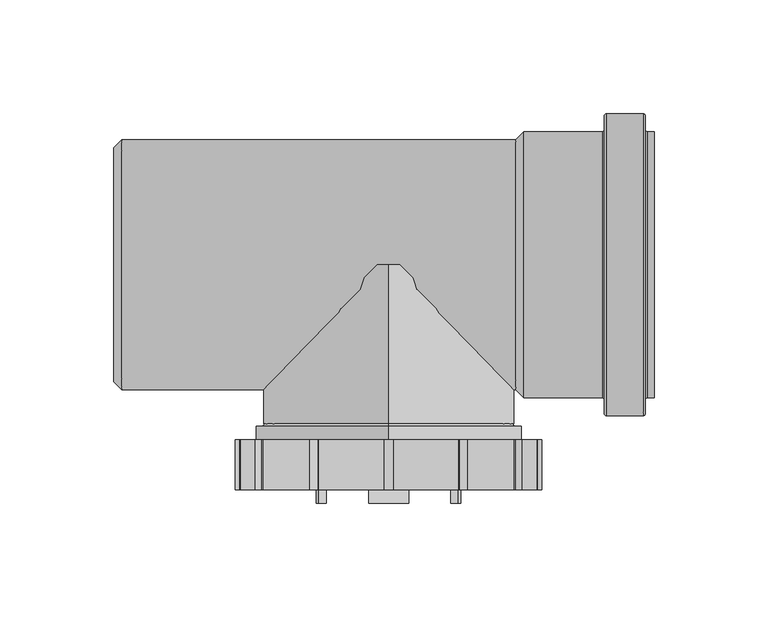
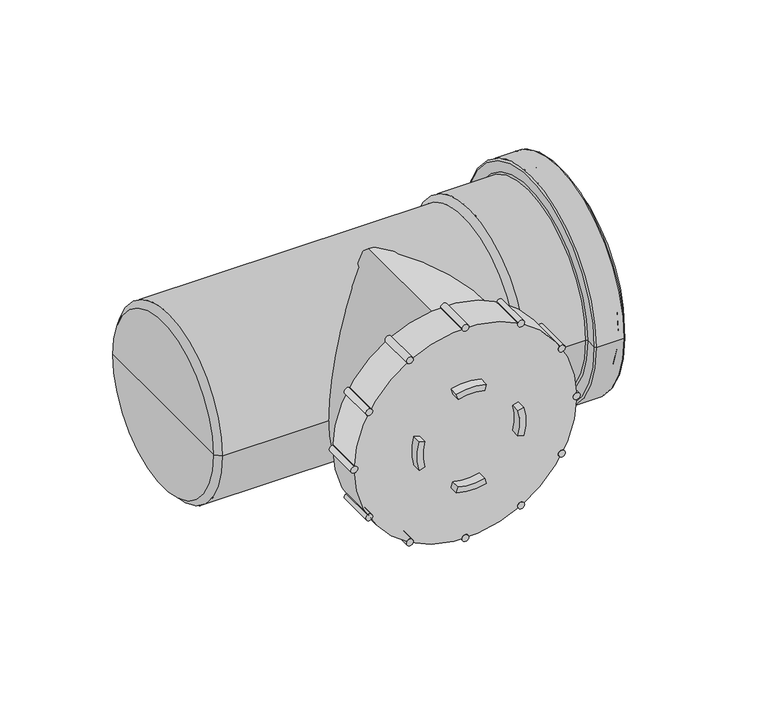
"""IFC4 building model written with IfcOpenShell, lengths in millimetres: pipe fitting geometry, MarleyPlumbingAndDrainage_PipeFitting_dBlueAccess_VCZ-110-000-00D : VCZ-110-000-00D - 110mm - Blue."""

from ifc_helpers import new_model, si_unit, point, frame, frame_2d, origin, place, context, project, spatial, polyline, circle_curve, ellipse_curve, trimmed, segment, composite_curve, outline, extrude, source, transform, mapped, element, save
from ifc_brep_helpers import plane_surface, cylinder_surface, revolved_surface, advanced_brep


def pipe_fitting_27dfb203(model_context):
    return source(origin(), model_context, "Body", "SolidModel", [
        extrude(outline(composite_curve([segment(trimmed(circle_curve(frame_2d((32.75, -454.0706525)), 2.0), [point((34.4820508, -455.0706525))], [point((31.0179492, -453.0706525))], False, "CARTESIAN"), True, "CONTINUOUS"), segment(trimmed(circle_curve(frame_2d((32.75, -454.0706525)), 2.0), [point((31.0179492, -453.0706525))], [point((34.4820508, -455.0706525))], False, "CARTESIAN"), True, "CONTINUOUS")], self_intersect=False)), frame((0.0, -99.0, 0.0), z_axis=(0.0, 1.0, 0.0), x_axis=(0.0, 0.0, 1.0)), (0.0, 0.0, 1.0), 22.0),
        extrude(outline(composite_curve([segment(trimmed(circle_curve(frame_2d((0.0, -445.2953164)), 2.0), [point((2.0, -445.2953164))], [point((-2.0, -445.2953164))], False, "CARTESIAN"), True, "CONTINUOUS"), segment(trimmed(circle_curve(frame_2d((0.0, -445.2953164)), 2.0), [point((-2.0, -445.2953164))], [point((2.0, -445.2953164))], False, "CARTESIAN"), True, "CONTINUOUS")], self_intersect=False)), frame((0.0, -99.0, 0.0), z_axis=(0.0, 1.0, 0.0), x_axis=(0.0, 0.0, 1.0)), (0.0, 0.0, 1.0), 22.0),
        extrude(outline(composite_curve([segment(trimmed(circle_curve(frame_2d((-32.75, -454.0706525)), 2.0), [point((-31.0179492, -453.0706525))], [point((-34.4820508, -455.0706525))], False, "CARTESIAN"), True, "CONTINUOUS"), segment(trimmed(circle_curve(frame_2d((-32.75, -454.0706525)), 2.0), [point((-34.4820508, -455.0706525))], [point((-31.0179492, -453.0706525))], False, "CARTESIAN"), True, "CONTINUOUS")], self_intersect=False)), frame((0.0, -99.0, 0.0), z_axis=(0.0, 1.0, 0.0), x_axis=(0.0, 0.0, 1.0)), (0.0, 0.0, 1.0), 22.0),
        extrude(outline(composite_curve([segment(trimmed(circle_curve(frame_2d((-56.7246639, -478.0453164)), 2.0), [point((-55.7246639, -476.3132656))], [point((-57.7246639, -479.7773672))], False, "CARTESIAN"), True, "CONTINUOUS"), segment(trimmed(circle_curve(frame_2d((-56.7246639, -478.0453164)), 2.0), [point((-57.7246639, -479.7773672))], [point((-55.7246639, -476.3132656))], False, "CARTESIAN"), True, "CONTINUOUS")], self_intersect=False)), frame((0.0, -99.0, 0.0), z_axis=(0.0, 1.0, 0.0), x_axis=(0.0, 0.0, 1.0)), (0.0, 0.0, 1.0), 22.0),
        extrude(outline(composite_curve([segment(trimmed(circle_curve(frame_2d((-65.5, -510.7953164)), 2.0), [point((-65.5, -508.7953164))], [point((-65.5, -512.7953164))], False, "CARTESIAN"), True, "CONTINUOUS"), segment(trimmed(circle_curve(frame_2d((-65.5, -510.7953164)), 2.0), [point((-65.5, -512.7953164))], [point((-65.5, -508.7953164))], False, "CARTESIAN"), True, "CONTINUOUS")], self_intersect=False)), frame((0.0, -99.0, 0.0), z_axis=(0.0, 1.0, 0.0), x_axis=(0.0, 0.0, 1.0)), (0.0, 0.0, 1.0), 22.0),
        extrude(outline(composite_curve([segment(trimmed(circle_curve(frame_2d((-56.7246639, -543.5453164)), 2.0), [point((-57.7246639, -541.8132656))], [point((-55.7246639, -545.2773672))], False, "CARTESIAN"), True, "CONTINUOUS"), segment(trimmed(circle_curve(frame_2d((-56.7246639, -543.5453164)), 2.0), [point((-55.7246639, -545.2773672))], [point((-57.7246639, -541.8132656))], False, "CARTESIAN"), True, "CONTINUOUS")], self_intersect=False)), frame((0.0, -99.0, 0.0), z_axis=(0.0, 1.0, 0.0), x_axis=(0.0, 0.0, 1.0)), (0.0, 0.0, 1.0), 22.0),
        extrude(outline(composite_curve([segment(trimmed(circle_curve(frame_2d((-32.75, -567.5199803)), 2.0), [point((-34.4820508, -566.5199803))], [point((-31.0179492, -568.5199803))], False, "CARTESIAN"), True, "CONTINUOUS"), segment(trimmed(circle_curve(frame_2d((-32.75, -567.5199803)), 2.0), [point((-31.0179492, -568.5199803))], [point((-34.4820508, -566.5199803))], False, "CARTESIAN"), True, "CONTINUOUS")], self_intersect=False)), frame((0.0, -99.0, 0.0), z_axis=(0.0, 1.0, 0.0), x_axis=(0.0, 0.0, 1.0)), (0.0, 0.0, 1.0), 22.0),
        extrude(outline(composite_curve([segment(trimmed(circle_curve(frame_2d((0.0, -576.2953164)), 2.0), [point((-2.0, -576.2953164))], [point((2.0, -576.2953164))], False, "CARTESIAN"), True, "CONTINUOUS"), segment(trimmed(circle_curve(frame_2d((0.0, -576.2953164)), 2.0), [point((2.0, -576.2953164))], [point((-2.0, -576.2953164))], False, "CARTESIAN"), True, "CONTINUOUS")], self_intersect=False)), frame((0.0, -99.0, 0.0), z_axis=(0.0, 1.0, 0.0), x_axis=(0.0, 0.0, 1.0)), (0.0, 0.0, 1.0), 22.0),
        extrude(outline(composite_curve([segment(trimmed(circle_curve(frame_2d((32.75, -567.5199803)), 2.0), [point((31.0179492, -568.5199803))], [point((34.4820508, -566.5199803))], False, "CARTESIAN"), True, "CONTINUOUS"), segment(trimmed(circle_curve(frame_2d((32.75, -567.5199803)), 2.0), [point((34.4820508, -566.5199803))], [point((31.0179492, -568.5199803))], False, "CARTESIAN"), True, "CONTINUOUS")], self_intersect=False)), frame((0.0, -99.0, 0.0), z_axis=(0.0, 1.0, 0.0), x_axis=(0.0, 0.0, 1.0)), (0.0, 0.0, 1.0), 22.0),
        extrude(outline(composite_curve([segment(trimmed(circle_curve(frame_2d((56.7246639, -543.5453164)), 2.0), [point((55.7246639, -545.2773672))], [point((57.7246639, -541.8132656))], False, "CARTESIAN"), True, "CONTINUOUS"), segment(trimmed(circle_curve(frame_2d((56.7246639, -543.5453164)), 2.0), [point((57.7246639, -541.8132656))], [point((55.7246639, -545.2773672))], False, "CARTESIAN"), True, "CONTINUOUS")], self_intersect=False)), frame((0.0, -99.0, 0.0), z_axis=(0.0, 1.0, 0.0), x_axis=(0.0, 0.0, 1.0)), (0.0, 0.0, 1.0), 22.0),
        extrude(outline(composite_curve([segment(trimmed(circle_curve(frame_2d((56.7246639, -478.0453164)), 2.0), [point((57.7246639, -479.7773672))], [point((55.7246639, -476.3132656))], False, "CARTESIAN"), True, "CONTINUOUS"), segment(trimmed(circle_curve(frame_2d((56.7246639, -478.0453164)), 2.0), [point((55.7246639, -476.3132656))], [point((57.7246639, -479.7773672))], False, "CARTESIAN"), True, "CONTINUOUS")], self_intersect=False)), frame((0.0, -99.0, 0.0), z_axis=(0.0, 1.0, 0.0), x_axis=(0.0, 0.0, 1.0)), (0.0, 0.0, 1.0), 22.0),
        extrude(outline(composite_curve([segment(trimmed(circle_curve(frame_2d((65.5, -510.7953164)), 2.0), [point((65.5, -512.7953164))], [point((65.5, -508.7953164))], False, "CARTESIAN"), True, "CONTINUOUS"), segment(trimmed(circle_curve(frame_2d((65.5, -510.7953164)), 2.0), [point((65.5, -508.7953164))], [point((65.5, -512.7953164))], False, "CARTESIAN"), True, "CONTINUOUS")], self_intersect=False)), frame((0.0, -99.0, 0.0), z_axis=(0.0, 1.0, 0.0), x_axis=(0.0, 0.0, 1.0)), (0.0, 0.0, 1.0), 22.0),
        advanced_brep(
        [(-576.2953164, -99.0, 0.0), (-445.2953164, -99.0, 0.0), (-576.2953164, -77.0, 0.0), (-445.2953164, -77.0, 0.0), (-510.7953164, -77.0, -58.5), (-510.7953164, -77.0, 58.5), (-510.7953164, -71.0, -58.5), (-510.7953164, -71.0, 58.5), (-510.7953164, -71.0, -56.0), (-510.7953164, -71.0, 56.0), (-510.7953164, -70.0, -55.0), (-510.7953164, -70.0, 55.0), (-510.7953164, 0.0, -55.0), (-510.7953164, 0.0, 55.0), (-510.7953164, 0.0, 0.0)],
        [
            (0, 1, circle_curve(frame((-510.7953164, -99.0, 0.0), z_axis=(0.0, -1.0, 0.0), x_axis=(1.0, 0.0, 0.0)), 65.5)),
            (1, 0, circle_curve(frame((-510.7953164, -99.0, 0.0), z_axis=(0.0, -1.0, 0.0), x_axis=(1.0, 0.0, 0.0)), 65.5)),
            (2, 3, circle_curve(frame((-510.7953164, -77.0, 0.0), z_axis=(0.0, 1.0, 0.0), x_axis=(1.0, 0.0, 0.0)), 65.5)),
            (3, 2, circle_curve(frame((-510.7953164, -77.0, 0.0), z_axis=(0.0, 1.0, 0.0), x_axis=(1.0, 0.0, 0.0)), 65.5)),
            (4, 5, circle_curve(frame((-510.7953164, -77.0, 0.0), z_axis=(0.0, -1.0, 0.0), x_axis=(0.0, 0.0, 1.0)), 58.5)),
            (5, 4, circle_curve(frame((-510.7953164, -77.0, 0.0), z_axis=(0.0, -1.0, 0.0), x_axis=(0.0, 0.0, 1.0)), 58.5)),
            (0, 2),
            (3, 1),
            (6, 7, circle_curve(frame((-510.7953164, -71.0, 0.0), z_axis=(0.0, -1.0, 0.0), x_axis=(0.0, 0.0, 1.0)), 58.5)),
            (7, 5),
            (4, 6),
            (7, 6, circle_curve(frame((-510.7953164, -71.0, 0.0), z_axis=(0.0, -1.0, 0.0), x_axis=(0.0, 0.0, 1.0)), 58.5)),
            (6, 8),
            (8, 9, circle_curve(frame((-510.7953164, -71.0, 0.0), z_axis=(0.0, -1.0, 0.0), x_axis=(0.0, 0.0, 1.0)), 56.0)),
            (9, 7),
            (9, 8, circle_curve(frame((-510.7953164, -71.0, 0.0), z_axis=(0.0, -1.0, 0.0), x_axis=(0.0, 0.0, 1.0)), 56.0)),
            (8, 10, circle_curve(frame((-510.7953164, -70.0, -56.0), z_axis=(-1.0, 0.0, 0.0), x_axis=(0.0, -1.0, 0.0)), 1.0)),
            (10, 11, circle_curve(frame((-510.7953164, -70.0, 0.0), z_axis=(0.0, -1.0, 0.0), x_axis=(0.0, 0.0, 1.0)), 55.0)),
            (11, 9, circle_curve(frame((-510.7953164, -70.0, 56.0), z_axis=(-1.0, 0.0, 0.0), x_axis=(0.0, -1.0, 0.0)), 1.0)),
            (11, 10, circle_curve(frame((-510.7953164, -70.0, 0.0), z_axis=(0.0, -1.0, 0.0), x_axis=(0.0, 0.0, 1.0)), 55.0)),
            (10, 12),
            (12, 13, circle_curve(frame((-510.7953164, 0.0, 0.0), z_axis=(0.0, -1.0, 0.0), x_axis=(0.0, 0.0, 1.0)), 55.0)),
            (13, 11),
            (13, 12, circle_curve(frame((-510.7953164, 0.0, 0.0), z_axis=(0.0, -1.0, 0.0), x_axis=(0.0, 0.0, 1.0)), 55.0)),
            (12, 14),
            (14, 13),
        ],
        [
            plane_surface(frame((-445.2953164, -99.0, 0.0), z_axis=(0.0, -1.0, 0.0), x_axis=(0.0, 0.0, 1.0))),
            plane_surface(frame((-445.2953164, -77.0, 0.0), z_axis=(0.0, 1.0, 0.0), x_axis=(0.0, 0.0, -1.0))),
            cylinder_surface(frame((-510.7953164, -77.0, 0.0), z_axis=(0.0, -1.0, 0.0), x_axis=(1.0, 0.0, 0.0)), 65.5),
            cylinder_surface(frame((-510.7953164, 1158.344146, 0.0), z_axis=(0.0, 1.0, 0.0), x_axis=(0.0, 0.0, 1.0)), 58.5),
            plane_surface(frame((-510.7953164, -71.0, 0.0), z_axis=(0.0, 1.0, 0.0), x_axis=(0.0, 0.0, 1.0))),
            revolved_surface(trimmed(ellipse_curve(frame((-510.7953164, -70.0, 56.0), z_axis=(1.0, 0.0, 0.0), x_axis=(0.0, -1.0, 0.0)), 1.0, 1.0), [point((-510.7953164, -71.0, 56.0))], [point((-510.7953164, -70.0, 55.0))], True, "CARTESIAN"), (-510.7953164, 1158.344146, 0.0), (0.0, 1.0, 0.0)),
            cylinder_surface(frame((-510.7953164, 1158.344146, 0.0), z_axis=(0.0, 1.0, 0.0), x_axis=(0.0, 0.0, 1.0)), 55.0),
            plane_surface(frame((-510.7953164, 0.0, 0.0), z_axis=(0.0, 1.0, 0.0), x_axis=(0.0, 0.0, 1.0))),
        ],
        [
            (0, [[1, 2]]),
            (1, [[3, 4], [5, 6]]),
            (2, [[-1, 7, -4, 8]]),
            (2, [[-2, -8, -3, -7]]),
            (3, [[9, 10, -5, 11]]),
            (3, [[-10, 12, -11, -6]]),
            (4, [[-9, 13, 14, 15]]),
            (4, [[-12, -15, 16, -13]]),
            (5, [[-14, 17, 18, 19]]),
            (5, [[-16, -19, 20, -17]]),
            (6, [[-18, 21, 22, 23]]),
            (6, [[-20, -23, 24, -21]]),
            (7, [[-22, 25, 26]]),
            (7, [[-24, -26, -25]]),
        ],
    ),
        extrude(outline(composite_curve([segment(polyline([(27.3959583, -502.9396518), (30.7603743, -501.974921)]), True, "CONTINUOUS"), segment(trimmed(circle_curve(frame_2d((0.0, -510.7953164)), 32.0), [point((30.7603743, -501.974921))], [point((30.7603743, -519.6157118))], False, "CARTESIAN"), True, "CONTINUOUS"), segment(polyline([(30.7603743, -519.6157118), (27.3959583, -518.650981)]), True, "CONTINUOUS"), segment(trimmed(circle_curve(frame_2d((0.0, -510.7953164)), 28.5), [point((27.3959583, -518.650981))], [point((27.3959583, -502.9396518))], True, "CARTESIAN"), True, "CONTINUOUS")], self_intersect=False)), frame((0.0, -105.0, 0.0), z_axis=(0.0, 1.0, 0.0), x_axis=(0.0, 0.0, 1.0)), (0.0, 0.0, 1.0), 6.0),
        extrude(outline(composite_curve([segment(polyline([(7.8556646, -538.1912747), (8.8203954, -541.5556907)]), True, "CONTINUOUS"), segment(trimmed(circle_curve(frame_2d((0.0, -510.7953164)), 32.0), [point((8.8203954, -541.5556907))], [point((-8.8203954, -541.5556907))], False, "CARTESIAN"), True, "CONTINUOUS"), segment(polyline([(-8.8203954, -541.5556907), (-7.8556646, -538.1912747)]), True, "CONTINUOUS"), segment(trimmed(circle_curve(frame_2d((0.0, -510.7953164)), 28.5), [point((-7.8556646, -538.1912747))], [point((7.8556646, -538.1912747))], True, "CARTESIAN"), True, "CONTINUOUS")], self_intersect=False)), frame((0.0, -105.0, 0.0), z_axis=(0.0, 1.0, 0.0), x_axis=(0.0, 0.0, 1.0)), (0.0, 0.0, 1.0), 6.0),
        extrude(outline(composite_curve([segment(trimmed(circle_curve(frame_2d((0.0, -510.7953164)), 28.5), [point((7.8556646, -483.3993581))], [point((-7.8556646, -483.3993581))], True, "CARTESIAN"), True, "CONTINUOUS"), segment(polyline([(-7.8556646, -483.3993581), (-8.8203954, -480.0349421)]), True, "CONTINUOUS"), segment(trimmed(circle_curve(frame_2d((0.0, -510.7953164)), 32.0), [point((-8.8203954, -480.0349421))], [point((8.8203954, -480.0349421))], False, "CARTESIAN"), True, "CONTINUOUS"), segment(polyline([(8.8203954, -480.0349421), (7.8556646, -483.3993581)]), True, "CONTINUOUS")], self_intersect=False)), frame((0.0, -105.0, 0.0), z_axis=(0.0, 1.0, 0.0), x_axis=(0.0, 0.0, 1.0)), (0.0, 0.0, 1.0), 6.0),
        extrude(outline(composite_curve([segment(polyline([(-30.7603743, -501.974921), (-27.3959583, -502.9396518)]), True, "CONTINUOUS"), segment(trimmed(circle_curve(frame_2d((0.0, -510.7953164)), 28.5), [point((-27.3959583, -502.9396518))], [point((-27.3959583, -518.650981))], True, "CARTESIAN"), True, "CONTINUOUS"), segment(polyline([(-27.3959583, -518.650981), (-30.7603743, -519.6157118)]), True, "CONTINUOUS"), segment(trimmed(circle_curve(frame_2d((0.0, -510.7953164)), 32.0), [point((-30.7603743, -519.6157118))], [point((-30.7603743, -501.974921))], False, "CARTESIAN"), True, "CONTINUOUS")], self_intersect=False)), frame((0.0, -105.0, 0.0), z_axis=(0.0, 1.0, 0.0), x_axis=(0.0, 0.0, 1.0)), (0.0, 0.0, 1.0), 6.0),
        advanced_brep(
        [(-396.7953164, -58.5, 0.0), (-396.7953164, 58.5, 0.0), (-393.7953164, 58.5, 0.0), (-393.7953164, -58.5, 0.0), (-397.7953164, -65.5, 0.0), (-397.7953164, 65.5, 0.0), (-397.7953164, 59.5, 0.0), (-397.7953164, -59.5, 0.0), (-414.7953164, -66.5, 0.0), (-414.7953164, 66.5, 0.0), (-398.7953164, 66.5, 0.0), (-398.7953164, -66.5, 0.0), (-415.7953164, -59.5, 0.0), (-415.7953164, 59.5, 0.0), (-415.7953164, 65.5, 0.0), (-415.7953164, -65.5, 0.0), (-451.2953164, -58.5, 0.0), (-451.2953164, 58.5, 0.0), (-416.7953164, 58.5, 0.0), (-416.7953164, -58.5, 0.0), (-454.7953164, -55.0, 0.0), (-454.7953164, 55.0, 0.0), (-628.2953164, -55.0, 0.0), (-628.2953164, 55.0, 0.0), (-631.7953164, -51.5, 0.0), (-631.7953164, 51.5, 0.0), (-451.2953164, -55.0, 0.0), (-451.2953164, 55.0, 0.0), (-451.2953164, 0.0, 0.0), (-393.7953164, -55.0, 0.0), (-393.7953164, 55.0, 0.0), (-631.7953164, 0.0, 0.0)],
        [
            (0, 1, circle_curve(frame((-396.7953164, 0.0, 0.0), z_axis=(1.0, 0.0, 0.0), x_axis=(0.0, 1.0, 0.0)), 58.5)),
            (1, 2),
            (2, 3, circle_curve(frame((-393.7953164, 0.0, 0.0), z_axis=(-1.0, 0.0, 0.0), x_axis=(0.0, 1.0, 0.0)), 58.5)),
            (3, 0),
            (1, 0, circle_curve(frame((-396.7953164, 0.0, 0.0), z_axis=(1.0, 0.0, 0.0), x_axis=(0.0, 1.0, 0.0)), 58.5)),
            (3, 2, circle_curve(frame((-393.7953164, 0.0, 0.0), z_axis=(-1.0, 0.0, 0.0), x_axis=(0.0, 1.0, 0.0)), 58.5)),
            (4, 5, circle_curve(frame((-397.7953164, 0.0, 0.0), z_axis=(1.0, 0.0, 0.0), x_axis=(0.0, 1.0, 0.0)), 65.5)),
            (5, 6),
            (6, 7, circle_curve(frame((-397.7953164, 0.0, 0.0), z_axis=(-1.0, 0.0, 0.0), x_axis=(0.0, 1.0, 0.0)), 59.5)),
            (7, 4),
            (5, 4, circle_curve(frame((-397.7953164, 0.0, 0.0), z_axis=(1.0, 0.0, 0.0), x_axis=(0.0, 1.0, 0.0)), 65.5)),
            (7, 6, circle_curve(frame((-397.7953164, 0.0, 0.0), z_axis=(-1.0, 0.0, 0.0), x_axis=(0.0, 1.0, 0.0)), 59.5)),
            (8, 9, circle_curve(frame((-414.7953164, 0.0, 0.0), z_axis=(1.0, 0.0, 0.0), x_axis=(0.0, 1.0, 0.0)), 66.5)),
            (9, 10),
            (10, 11, circle_curve(frame((-398.7953164, 0.0, 0.0), z_axis=(-1.0, 0.0, 0.0), x_axis=(0.0, 1.0, 0.0)), 66.5)),
            (11, 8),
            (9, 8, circle_curve(frame((-414.7953164, 0.0, 0.0), z_axis=(1.0, 0.0, 0.0), x_axis=(0.0, 1.0, 0.0)), 66.5)),
            (11, 10, circle_curve(frame((-398.7953164, 0.0, 0.0), z_axis=(-1.0, 0.0, 0.0), x_axis=(0.0, 1.0, 0.0)), 66.5)),
            (12, 13, circle_curve(frame((-415.7953164, 0.0, 0.0), z_axis=(1.0, 0.0, 0.0), x_axis=(0.0, 1.0, 0.0)), 59.5)),
            (13, 14),
            (14, 15, circle_curve(frame((-415.7953164, 0.0, 0.0), z_axis=(-1.0, 0.0, 0.0), x_axis=(0.0, 1.0, 0.0)), 65.5)),
            (15, 12),
            (13, 12, circle_curve(frame((-415.7953164, 0.0, 0.0), z_axis=(1.0, 0.0, 0.0), x_axis=(0.0, 1.0, 0.0)), 59.5)),
            (15, 14, circle_curve(frame((-415.7953164, 0.0, 0.0), z_axis=(-1.0, 0.0, 0.0), x_axis=(0.0, 1.0, 0.0)), 65.5)),
            (16, 17, circle_curve(frame((-451.2953164, 0.0, 0.0), z_axis=(1.0, 0.0, 0.0), x_axis=(0.0, 1.0, 0.0)), 58.5)),
            (17, 18),
            (18, 19, circle_curve(frame((-416.7953164, 0.0, 0.0), z_axis=(-1.0, 0.0, 0.0), x_axis=(0.0, 1.0, 0.0)), 58.5)),
            (19, 16),
            (17, 16, circle_curve(frame((-451.2953164, 0.0, 0.0), z_axis=(1.0, 0.0, 0.0), x_axis=(0.0, 1.0, 0.0)), 58.5)),
            (19, 18, circle_curve(frame((-416.7953164, 0.0, 0.0), z_axis=(-1.0, 0.0, 0.0), x_axis=(0.0, 1.0, 0.0)), 58.5)),
            (20, 21, circle_curve(frame((-454.7953164, 0.0, 0.0), z_axis=(1.0, 0.0, 0.0), x_axis=(0.0, 1.0, 0.0)), 55.0)),
            (21, 17),
            (16, 20),
            (21, 20, circle_curve(frame((-454.7953164, 0.0, 0.0), z_axis=(1.0, 0.0, 0.0), x_axis=(0.0, 1.0, 0.0)), 55.0)),
            (22, 23, circle_curve(frame((-628.2953164, 0.0, 0.0), z_axis=(1.0, 0.0, 0.0), x_axis=(0.0, 1.0, 0.0)), 55.0)),
            (23, 21),
            (20, 22),
            (23, 22, circle_curve(frame((-628.2953164, 0.0, 0.0), z_axis=(1.0, 0.0, 0.0), x_axis=(0.0, 1.0, 0.0)), 55.0)),
            (24, 25, circle_curve(frame((-631.7953164, 0.0, 0.0), z_axis=(1.0, 0.0, 0.0), x_axis=(0.0, 1.0, 0.0)), 51.5)),
            (25, 23),
            (22, 24),
            (25, 24, circle_curve(frame((-631.7953164, 0.0, 0.0), z_axis=(1.0, 0.0, 0.0), x_axis=(0.0, 1.0, 0.0)), 51.5)),
            (26, 27, circle_curve(frame((-451.2953164, 0.0, 0.0), z_axis=(1.0, 0.0, 0.0), x_axis=(0.0, 1.0, 0.0)), 55.0)),
            (27, 28),
            (28, 26),
            (27, 26, circle_curve(frame((-451.2953164, 0.0, 0.0), z_axis=(1.0, 0.0, 0.0), x_axis=(0.0, 1.0, 0.0)), 55.0)),
            (29, 30, circle_curve(frame((-393.7953164, 0.0, 0.0), z_axis=(1.0, 0.0, 0.0), x_axis=(0.0, 1.0, 0.0)), 55.0)),
            (30, 27),
            (26, 29),
            (30, 29, circle_curve(frame((-393.7953164, 0.0, 0.0), z_axis=(1.0, 0.0, 0.0), x_axis=(0.0, 1.0, 0.0)), 55.0)),
            (2, 30),
            (29, 3),
            (6, 1, circle_curve(frame((-396.7953164, 59.5, 0.0), z_axis=(0.0, 0.0, 1.0), x_axis=(1.0, 0.0, 0.0)), 1.0)),
            (0, 7, circle_curve(frame((-396.7953164, -59.5, 0.0), z_axis=(0.0, 0.0, 1.0), x_axis=(1.0, 0.0, 0.0)), 1.0)),
            (10, 5, circle_curve(frame((-398.7953164, 65.5, 0.0), z_axis=(0.0, 0.0, -1.0), x_axis=(1.0, 0.0, 0.0)), 1.0)),
            (4, 11, circle_curve(frame((-398.7953164, -65.5, 0.0), z_axis=(0.0, 0.0, -1.0), x_axis=(1.0, 0.0, 0.0)), 1.0)),
            (14, 9, circle_curve(frame((-414.7953164, 65.5, 0.0), z_axis=(0.0, 0.0, -1.0), x_axis=(1.0, 0.0, 0.0)), 1.0)),
            (8, 15, circle_curve(frame((-414.7953164, -65.5, 0.0), z_axis=(0.0, 0.0, -1.0), x_axis=(1.0, 0.0, 0.0)), 1.0)),
            (18, 13, circle_curve(frame((-416.7953164, 59.5, 0.0), z_axis=(0.0, 0.0, 1.0), x_axis=(1.0, 0.0, 0.0)), 1.0)),
            (12, 19, circle_curve(frame((-416.7953164, -59.5, 0.0), z_axis=(0.0, 0.0, 1.0), x_axis=(1.0, 0.0, 0.0)), 1.0)),
            (31, 25),
            (24, 31),
        ],
        [
            cylinder_surface(frame((2018.0, 0.0, 0.0), z_axis=(-1.0, 0.0, 0.0), x_axis=(0.0, 1.0, 0.0)), 58.5),
            plane_surface(frame((-397.7953164, 0.0, 0.0), z_axis=(1.0, 0.0, 0.0), x_axis=(0.0, 1.0, 0.0))),
            cylinder_surface(frame((2018.0, 0.0, 0.0), z_axis=(-1.0, 0.0, 0.0), x_axis=(0.0, 1.0, 0.0)), 66.5),
            plane_surface(frame((-415.7953164, 0.0, 0.0), z_axis=(-1.0, 0.0, 0.0), x_axis=(0.0, 1.0, 0.0))),
            revolved_surface(polyline([(-451.2953164, 58.5, 0.0), (-454.7953164, 55.0, 0.0)]), (2018.0, 0.0, 0.0), (-1.0, 0.0, 0.0)),
            cylinder_surface(frame((2018.0, 0.0, 0.0), z_axis=(-1.0, 0.0, 0.0), x_axis=(0.0, 1.0, 0.0)), 55.0),
            revolved_surface(polyline([(-628.2953164, 55.0, 0.0), (-631.7953164, 51.5, 0.0)]), (2018.0, 0.0, 0.0), (-1.0, 0.0, 0.0)),
            plane_surface(frame((-451.2953164, 0.0, 0.0), z_axis=(1.0, 0.0, 0.0), x_axis=(0.0, 1.0, 0.0))),
            revolved_surface(polyline([(-451.29531640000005, 55.0, 0.0), (-393.79531640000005, 55.0, 0.0)]), (2018.0, 0.0, 0.0), (-1.0, 0.0, 0.0)),
            plane_surface(frame((-393.7953164, 0.0, 0.0), z_axis=(1.0, 0.0, 0.0), x_axis=(0.0, 1.0, 0.0))),
            revolved_surface(trimmed(ellipse_curve(frame((-396.7953164, 59.5, 0.0), z_axis=(0.0, 0.0, -1.0), x_axis=(1.0, 0.0, 0.0)), 1.0, 1.0), [point((-396.7953164, 58.5, 0.0))], [point((-397.7953164, 59.5, 0.0))], True, "CARTESIAN"), (2018.0, 0.0, 0.0), (-1.0, 0.0, 0.0)),
            revolved_surface(trimmed(ellipse_curve(frame((-398.7953164, 65.5, 0.0), z_axis=(0.0, 0.0, 1.0), x_axis=(1.0, 0.0, 0.0)), 1.0, 1.0), [point((-397.7953164, 65.5, 0.0))], [point((-398.7953164, 66.5, 0.0))], True, "CARTESIAN"), (2018.0, 0.0, 0.0), (-1.0, 0.0, 0.0)),
            revolved_surface(trimmed(ellipse_curve(frame((-414.7953164, 65.5, 0.0), z_axis=(0.0, 0.0, 1.0), x_axis=(1.0, 0.0, 0.0)), 1.0, 1.0), [point((-414.7953164, 66.5, 0.0))], [point((-415.7953164, 65.5, 0.0))], True, "CARTESIAN"), (2018.0, 0.0, 0.0), (-1.0, 0.0, 0.0)),
            revolved_surface(trimmed(ellipse_curve(frame((-416.7953164, 59.5, 0.0), z_axis=(0.0, 0.0, -1.0), x_axis=(1.0, 0.0, 0.0)), 1.0, 1.0), [point((-415.7953164, 59.5, 0.0))], [point((-416.7953164, 58.5, 0.0))], True, "CARTESIAN"), (2018.0, 0.0, 0.0), (-1.0, 0.0, 0.0)),
            plane_surface(frame((-631.7953164, 0.0, 0.0), z_axis=(-1.0, 0.0, 0.0), x_axis=(0.0, 1.0, 0.0))),
        ],
        [
            (0, [[1, 2, 3, 4]]),
            (0, [[5, -4, 6, -2]]),
            (1, [[7, 8, 9, 10]]),
            (1, [[11, -10, 12, -8]]),
            (2, [[13, 14, 15, 16]]),
            (2, [[17, -16, 18, -14]]),
            (3, [[19, 20, 21, 22]]),
            (3, [[23, -22, 24, -20]]),
            (0, [[25, 26, 27, 28]]),
            (0, [[29, -28, 30, -26]]),
            (4, [[31, 32, -25, 33]]),
            (4, [[34, -33, -29, -32]]),
            (5, [[35, 36, -31, 37]]),
            (5, [[38, -37, -34, -36]]),
            (6, [[39, 40, -35, 41]]),
            (6, [[42, -41, -38, -40]]),
            (7, [[43, 44, 45]]),
            (7, [[46, -45, -44]]),
            (8, [[47, 48, -43, 49]]),
            (8, [[50, -49, -46, -48]]),
            (9, [[-3, 51, -47, 52]]),
            (9, [[-6, -52, -50, -51]]),
            (10, [[-9, 53, -1, 54]]),
            (10, [[-12, -54, -5, -53]]),
            (11, [[-15, 55, -7, 56]]),
            (11, [[-18, -56, -11, -55]]),
            (12, [[-21, 57, -13, 58]]),
            (12, [[-24, -58, -17, -57]]),
            (13, [[-27, 59, -19, 60]]),
            (13, [[-30, -60, -23, -59]]),
            (14, [[61, -39, 62]]),
            (14, [[-62, -42, -61]]),
        ],
    ),
    ])


if __name__ == "__main__":
    model = new_model("IFC4")
    model_context = context("Model", 3, world=origin())
    ifc_project = project(units=[si_unit("LENGTHUNIT", "METRE", prefix="MILLI")], contexts=[model_context])
    site = spatial("IfcSite", under=ifc_project)
    building = spatial("IfcBuilding", under=site)
    placement = place(None, origin())
    pipe_fitting_shape = pipe_fitting_27dfb203(model_context)
    element("IfcPipeFitting", 1, ObjectType="MarleyPlumbingAndDrainage_PipeFitting_dBlueAccess_VCZ-110-000-00D : VCZ-110-000-00D - 110mm - Blue", at=placement, inside=building, context=model_context, shape_type="MappedRepresentation", body=[
        mapped(pipe_fitting_shape, transform((0.0, 0.0, 0.0), x_axis=(1.0, 0.0, 0.0), y_axis=(0.0, 1.0, 0.0), z_axis=(0.0, 0.0, 1.0))),
    ])
    save(model, "model.ifc")
